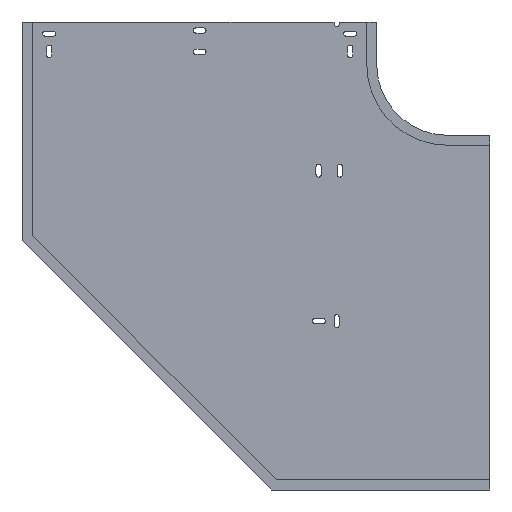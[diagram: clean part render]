
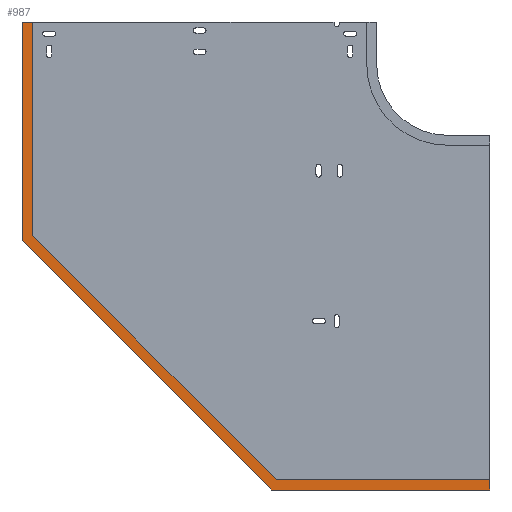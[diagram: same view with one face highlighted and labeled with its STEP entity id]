
A CAD part, front view. The second image highlights one B-rep face of the part: STEP entity #987.
In plain terms, the highlighted planar face has unit normal (0, -1, 0).
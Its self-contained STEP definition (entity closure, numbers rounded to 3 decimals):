
#22 = EDGE_CURVE ( 'NONE', #2338, #2047, #3042, .T. ) ;
#72 = CARTESIAN_POINT ( 'NONE',  ( -660.846, -1., 352.846 ) ) ;
#110 = LINE ( 'NONE', #3162, #1909 ) ;
#196 = DIRECTION ( 'NONE',  ( -0.707, 0., 0.707 ) ) ;
#255 = LINE ( 'NONE', #1574, #5483 ) ;
#287 = VERTEX_POINT ( 'NONE', #4826 ) ;
#449 = LINE ( 'NONE', #5599, #3663 ) ;
#479 = VECTOR ( 'NONE', #196, 1000. ) ;
#538 = VERTEX_POINT ( 'NONE', #2927 ) ;
#613 = DIRECTION ( 'NONE',  ( 0., 0., -1. ) ) ;
#674 = CARTESIAN_POINT ( 'NONE',  ( 0., -1., 0. ) ) ;
#688 = CARTESIAN_POINT ( 'NONE',  ( -645.846, -1., 359.059 ) ) ;
#731 = CARTESIAN_POINT ( 'NONE',  ( -366.74, -1., 15. ) ) ;
#752 = EDGE_CURVE ( 'NONE', #1467, #2047, #255, .T. ) ;
#780 = FACE_OUTER_BOUND ( 'NONE', #2184, .T. ) ;
#804 = DIRECTION ( 'NONE',  ( 0., -1., 0. ) ) ;
#835 = LINE ( 'NONE', #731, #4770 ) ;
#838 = CARTESIAN_POINT ( 'NONE',  ( -660.846, -1., 352.846 ) ) ;
#987 = ADVANCED_FACE ( 'NONE', ( #780 ), #5603, .T. ) ;
#1282 = ORIENTED_EDGE ( 'NONE', *, *, #1557, .T. ) ;
#1417 = CARTESIAN_POINT ( 'NONE',  ( -660.846, -1., 660.846 ) ) ;
#1467 = VERTEX_POINT ( 'NONE', #1951 ) ;
#1512 = EDGE_CURVE ( 'NONE', #2338, #3827, #110, .T. ) ;
#1557 = EDGE_CURVE ( 'NONE', #538, #2727, #449, .T. ) ;
#1574 = CARTESIAN_POINT ( 'NONE',  ( 0., -1., 15. ) ) ;
#1671 = CARTESIAN_POINT ( 'NONE',  ( -366.74, -1., 15. ) ) ;
#1748 = VECTOR ( 'NONE', #3056, 1000. ) ;
#1907 = ORIENTED_EDGE ( 'NONE', *, *, #5125, .F. ) ;
#1909 = VECTOR ( 'NONE', #3624, 1000. ) ;
#1951 = CARTESIAN_POINT ( 'NONE',  ( 0., -1., 15. ) ) ;
#2047 = VERTEX_POINT ( 'NONE', #674 ) ;
#2089 = AXIS2_PLACEMENT_3D ( 'NONE', #1671, #804, #5174 ) ;
#2184 = EDGE_LOOP ( 'NONE', ( #5538, #5549, #2219, #1282, #1907, #4403, #3646, #5410 ) ) ;
#2219 = ORIENTED_EDGE ( 'NONE', *, *, #2838, .T. ) ;
#2221 = CARTESIAN_POINT ( 'NONE',  ( -301.787, -1., 15. ) ) ;
#2276 = VECTOR ( 'NONE', #3530, 1000. ) ;
#2319 = EDGE_CURVE ( 'NONE', #2443, #1467, #835, .T. ) ;
#2324 = LINE ( 'NONE', #2840, #479 ) ;
#2338 = VERTEX_POINT ( 'NONE', #3839 ) ;
#2443 = VERTEX_POINT ( 'NONE', #2221 ) ;
#2727 = VERTEX_POINT ( 'NONE', #1417 ) ;
#2838 = EDGE_CURVE ( 'NONE', #287, #538, #3774, .T. ) ;
#2840 = CARTESIAN_POINT ( 'NONE',  ( -301.787, -1., 15. ) ) ;
#2927 = CARTESIAN_POINT ( 'NONE',  ( -645.846, -1., 660.846 ) ) ;
#3042 = LINE ( 'NONE', #3504, #2276 ) ;
#3056 = DIRECTION ( 'NONE',  ( 0., 0., 1. ) ) ;
#3162 = CARTESIAN_POINT ( 'NONE',  ( -308., -1., 0. ) ) ;
#3259 = DIRECTION ( 'NONE',  ( 0., 0., 1. ) ) ;
#3504 = CARTESIAN_POINT ( 'NONE',  ( -366.74, -1., 0. ) ) ;
#3530 = DIRECTION ( 'NONE',  ( 1., 0., 0. ) ) ;
#3624 = DIRECTION ( 'NONE',  ( -0.707, 0., 0.707 ) ) ;
#3639 = EDGE_CURVE ( 'NONE', #2443, #287, #2324, .T. ) ;
#3646 = ORIENTED_EDGE ( 'NONE', *, *, #22, .T. ) ;
#3663 = VECTOR ( 'NONE', #4266, 1000. ) ;
#3774 = LINE ( 'NONE', #688, #3933 ) ;
#3827 = VERTEX_POINT ( 'NONE', #72 ) ;
#3839 = CARTESIAN_POINT ( 'NONE',  ( -308., -1., 0. ) ) ;
#3933 = VECTOR ( 'NONE', #3259, 1000. ) ;
#4266 = DIRECTION ( 'NONE',  ( -1., 0., 0. ) ) ;
#4403 = ORIENTED_EDGE ( 'NONE', *, *, #1512, .F. ) ;
#4767 = LINE ( 'NONE', #838, #1748 ) ;
#4770 = VECTOR ( 'NONE', #5557, 1000. ) ;
#4826 = CARTESIAN_POINT ( 'NONE',  ( -645.846, -1., 359.059 ) ) ;
#5125 = EDGE_CURVE ( 'NONE', #3827, #2727, #4767, .T. ) ;
#5174 = DIRECTION ( 'NONE',  ( 0., 0., -1. ) ) ;
#5410 = ORIENTED_EDGE ( 'NONE', *, *, #752, .F. ) ;
#5483 = VECTOR ( 'NONE', #613, 1000. ) ;
#5538 = ORIENTED_EDGE ( 'NONE', *, *, #2319, .F. ) ;
#5549 = ORIENTED_EDGE ( 'NONE', *, *, #3639, .T. ) ;
#5557 = DIRECTION ( 'NONE',  ( 1., 0., 0. ) ) ;
#5599 = CARTESIAN_POINT ( 'NONE',  ( -490.055, -1., 660.846 ) ) ;
#5603 = PLANE ( 'NONE',  #2089 ) ;
